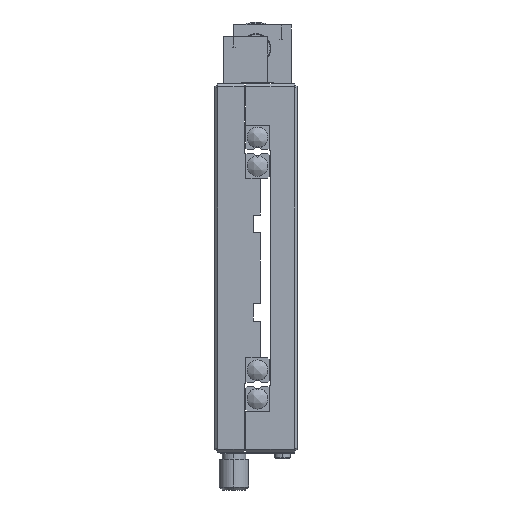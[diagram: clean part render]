
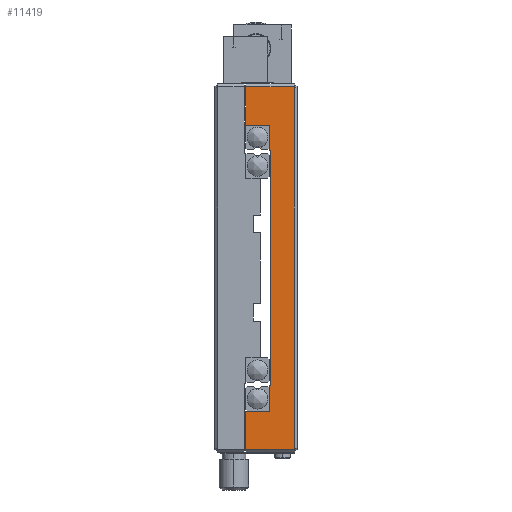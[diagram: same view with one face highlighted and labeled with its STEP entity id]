
A CAD part, left-side view. The second image highlights one B-rep face of the part: STEP entity #11419.
In plain terms, the highlighted planar face has unit normal (-1, 0, 0).
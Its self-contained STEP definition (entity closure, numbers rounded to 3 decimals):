
#39 = CARTESIAN_POINT ( 'NONE',  ( -62.5, 9., 40. ) ) ;
#144 = LINE ( 'NONE', #9671, #2267 ) ;
#544 = CARTESIAN_POINT ( 'NONE',  ( -62.5, 17.5, -61.5 ) ) ;
#771 = DIRECTION ( 'NONE',  ( 0., 0., 1. ) ) ;
#1034 = VECTOR ( 'NONE', #12666, 1000. ) ;
#1109 = VECTOR ( 'NONE', #6830, 1000. ) ;
#1491 = DIRECTION ( 'NONE',  ( 0., 0., -1. ) ) ;
#1509 = CARTESIAN_POINT ( 'NONE',  ( -62.5, 9.5, -48.5 ) ) ;
#1979 = VECTOR ( 'NONE', #7944, 1000. ) ;
#1990 = LINE ( 'NONE', #9026, #1109 ) ;
#2266 = DIRECTION ( 'NONE',  ( 0., 1., 0. ) ) ;
#2267 = VECTOR ( 'NONE', #2266, 1000. ) ;
#2370 = VECTOR ( 'NONE', #12747, 1000. ) ;
#2613 = CARTESIAN_POINT ( 'NONE',  ( -62.5, 9.5, 48.5 ) ) ;
#2811 = CARTESIAN_POINT ( 'NONE',  ( -62.5, 17.5, -61.5 ) ) ;
#2889 = LINE ( 'NONE', #6470, #14961 ) ;
#2926 = CARTESIAN_POINT ( 'NONE',  ( -62.5, 9.5, -40. ) ) ;
#3111 = VERTEX_POINT ( 'NONE', #4247 ) ;
#3188 = CARTESIAN_POINT ( 'NONE',  ( -62.5, 17.5, 61.5 ) ) ;
#3315 = CARTESIAN_POINT ( 'NONE',  ( -62.5, 9., -61.5 ) ) ;
#3551 = ORIENTED_EDGE ( 'NONE', *, *, #13988, .F. ) ;
#3690 = DIRECTION ( 'NONE',  ( 0., 0., 1. ) ) ;
#3798 = VERTEX_POINT ( 'NONE', #14927 ) ;
#3914 = LINE ( 'NONE', #544, #5592 ) ;
#4061 = VERTEX_POINT ( 'NONE', #9540 ) ;
#4094 = ORIENTED_EDGE ( 'NONE', *, *, #6587, .F. ) ;
#4189 = VERTEX_POINT ( 'NONE', #1509 ) ;
#4247 = CARTESIAN_POINT ( 'NONE',  ( -62.5, 17.5, -48.5 ) ) ;
#4326 = CARTESIAN_POINT ( 'NONE',  ( -62.5, 17.5, 48.5 ) ) ;
#4666 = VERTEX_POINT ( 'NONE', #3188 ) ;
#5001 = FACE_OUTER_BOUND ( 'NONE', #12532, .T. ) ;
#5241 = ORIENTED_EDGE ( 'NONE', *, *, #15379, .T. ) ;
#5293 = LINE ( 'NONE', #2811, #8509 ) ;
#5311 = CARTESIAN_POINT ( 'NONE',  ( -62.5, 1., 61.5 ) ) ;
#5592 = VECTOR ( 'NONE', #11092, 1000. ) ;
#5663 = LINE ( 'NONE', #10418, #1034 ) ;
#5816 = EDGE_CURVE ( 'NONE', #3798, #14601, #3914, .T. ) ;
#6081 = VECTOR ( 'NONE', #3690, 1000. ) ;
#6425 = VERTEX_POINT ( 'NONE', #2613 ) ;
#6470 = CARTESIAN_POINT ( 'NONE',  ( -62.5, 9., 40. ) ) ;
#6565 = VERTEX_POINT ( 'NONE', #2926 ) ;
#6587 = EDGE_CURVE ( 'NONE', #4666, #13675, #9153, .T. ) ;
#6818 = DIRECTION ( 'NONE',  ( 0., -1., 0. ) ) ;
#6830 = DIRECTION ( 'NONE',  ( 0., -1., 0. ) ) ;
#7052 = CARTESIAN_POINT ( 'NONE',  ( -62.5, 9.5, -61.5 ) ) ;
#7435 = CARTESIAN_POINT ( 'NONE',  ( -62.5, 17.5, -61.5 ) ) ;
#7590 = VECTOR ( 'NONE', #15082, 1000. ) ;
#7877 = ORIENTED_EDGE ( 'NONE', *, *, #10644, .F. ) ;
#7944 = DIRECTION ( 'NONE',  ( 0., 0., 1. ) ) ;
#8509 = VECTOR ( 'NONE', #10990, 1000. ) ;
#8888 = EDGE_CURVE ( 'NONE', #14601, #3111, #5293, .T. ) ;
#9026 = CARTESIAN_POINT ( 'NONE',  ( -62.5, 17.5, -48.5 ) ) ;
#9153 = LINE ( 'NONE', #12648, #12848 ) ;
#9154 = VERTEX_POINT ( 'NONE', #39 ) ;
#9370 = EDGE_CURVE ( 'NONE', #3798, #13675, #12505, .T. ) ;
#9469 = EDGE_CURVE ( 'NONE', #4061, #6425, #14372, .T. ) ;
#9540 = CARTESIAN_POINT ( 'NONE',  ( -62.5, 9.5, 40. ) ) ;
#9656 = VERTEX_POINT ( 'NONE', #11179 ) ;
#9671 = CARTESIAN_POINT ( 'NONE',  ( -62.5, 17.5, 48.5 ) ) ;
#10418 = CARTESIAN_POINT ( 'NONE',  ( -62.5, 9.5, -40. ) ) ;
#10572 = EDGE_CURVE ( 'NONE', #3111, #4189, #1990, .T. ) ;
#10644 = EDGE_CURVE ( 'NONE', #9656, #9154, #14934, .T. ) ;
#10957 = ORIENTED_EDGE ( 'NONE', *, *, #12694, .F. ) ;
#10990 = DIRECTION ( 'NONE',  ( 0., 0., 1. ) ) ;
#11003 = ORIENTED_EDGE ( 'NONE', *, *, #9469, .F. ) ;
#11092 = DIRECTION ( 'NONE',  ( 0., 1., 0. ) ) ;
#11152 = DIRECTION ( 'NONE',  ( 0., -1., 0. ) ) ;
#11179 = CARTESIAN_POINT ( 'NONE',  ( -62.5, 9., -40. ) ) ;
#11295 = LINE ( 'NONE', #12607, #1979 ) ;
#11419 = ADVANCED_FACE ( 'NONE', ( #5001 ), #13336, .F. ) ;
#11459 = LINE ( 'NONE', #11533, #14922 ) ;
#11494 = CARTESIAN_POINT ( 'NONE',  ( -62.5, 1., -61.5 ) ) ;
#11533 = CARTESIAN_POINT ( 'NONE',  ( -62.5, 9.5, -61.5 ) ) ;
#11777 = ORIENTED_EDGE ( 'NONE', *, *, #14100, .T. ) ;
#12118 = ORIENTED_EDGE ( 'NONE', *, *, #8888, .F. ) ;
#12165 = DIRECTION ( 'NONE',  ( 1., 0., 0. ) ) ;
#12505 = LINE ( 'NONE', #11494, #7590 ) ;
#12532 = EDGE_LOOP ( 'NONE', ( #14459, #12118, #12826, #13497, #4094, #14308, #3551, #11003, #11777, #7877, #5241, #10957 ) ) ;
#12607 = CARTESIAN_POINT ( 'NONE',  ( -62.5, 17.5, -61.5 ) ) ;
#12648 = CARTESIAN_POINT ( 'NONE',  ( -62.5, 17.5, 61.5 ) ) ;
#12666 = DIRECTION ( 'NONE',  ( 0., 1., 0. ) ) ;
#12694 = EDGE_CURVE ( 'NONE', #4189, #6565, #11459, .T. ) ;
#12747 = DIRECTION ( 'NONE',  ( 0., 0., 1. ) ) ;
#12826 = ORIENTED_EDGE ( 'NONE', *, *, #5816, .F. ) ;
#12848 = VECTOR ( 'NONE', #6818, 1000. ) ;
#13066 = EDGE_CURVE ( 'NONE', #14658, #4666, #11295, .T. ) ;
#13336 = PLANE ( 'NONE',  #13847 ) ;
#13497 = ORIENTED_EDGE ( 'NONE', *, *, #9370, .T. ) ;
#13675 = VERTEX_POINT ( 'NONE', #5311 ) ;
#13847 = AXIS2_PLACEMENT_3D ( 'NONE', #7435, #12165, #1491 ) ;
#13988 = EDGE_CURVE ( 'NONE', #6425, #14658, #144, .T. ) ;
#14100 = EDGE_CURVE ( 'NONE', #4061, #9154, #2889, .T. ) ;
#14308 = ORIENTED_EDGE ( 'NONE', *, *, #13066, .F. ) ;
#14372 = LINE ( 'NONE', #7052, #6081 ) ;
#14459 = ORIENTED_EDGE ( 'NONE', *, *, #10572, .F. ) ;
#14601 = VERTEX_POINT ( 'NONE', #14863 ) ;
#14658 = VERTEX_POINT ( 'NONE', #4326 ) ;
#14863 = CARTESIAN_POINT ( 'NONE',  ( -62.5, 17.5, -61.5 ) ) ;
#14922 = VECTOR ( 'NONE', #771, 1000. ) ;
#14927 = CARTESIAN_POINT ( 'NONE',  ( -62.5, 1., -61.5 ) ) ;
#14934 = LINE ( 'NONE', #3315, #2370 ) ;
#14961 = VECTOR ( 'NONE', #11152, 1000. ) ;
#15082 = DIRECTION ( 'NONE',  ( 0., 0., 1. ) ) ;
#15379 = EDGE_CURVE ( 'NONE', #9656, #6565, #5663, .T. ) ;
